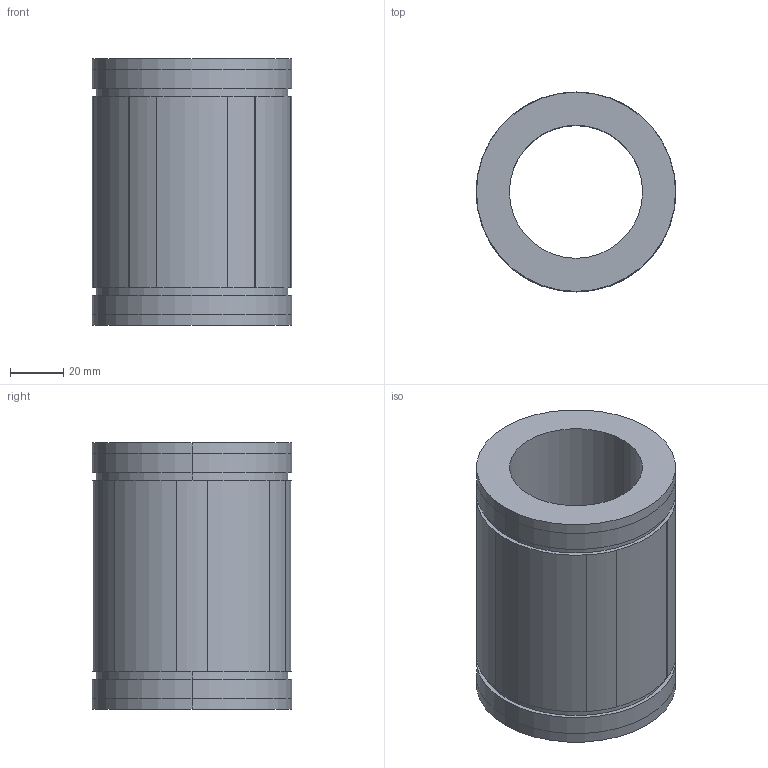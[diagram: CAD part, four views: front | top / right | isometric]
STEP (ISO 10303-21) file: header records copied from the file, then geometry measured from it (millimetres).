
FILE_DESCRIPTION((''),'2;1');
FILE_NAME('C:\Documents and Settings\ｿﾀﾀ蠑ｷ1\ｹﾙﾅﾁ ﾈｭｸ饅\ｺﾎﾇｰﾆﾄﾀﾏ\ﾁｦﾇｰ\LMES__UU\LMES50UU.stp','2005-06-15T14:06:15',('ｿﾀﾀ蠑ｷ1'),(''),'Autodesk Inventor 9','Autodesk Inventor 9','');
FILE_SCHEMA(('AUTOMOTIVE_DESIGN { 1 0 10303 214 1 1 1 1 }'));
Length unit declared in the file: millimetre
Products named in the file (1): LMES__
Bounding box: 75 x 75 x 100 mm (x, y, z)
Volume: 242294.5 mm3; surface area: 45473.6 mm2
Topology: 1 solids, 1 shells, 44 faces, 112 edges, 74 vertices
Faces by surface type: cylinder 22, plane 18, cone 4
Entity records: 1377 total; most frequent: DIRECTION 252, CARTESIAN_POINT 231, ORIENTED_EDGE 224, EDGE_CURVE 112, AXIS2_PLACEMENT_3D 95, VERTEX_POINT 74, VECTOR 62, LINE 62
